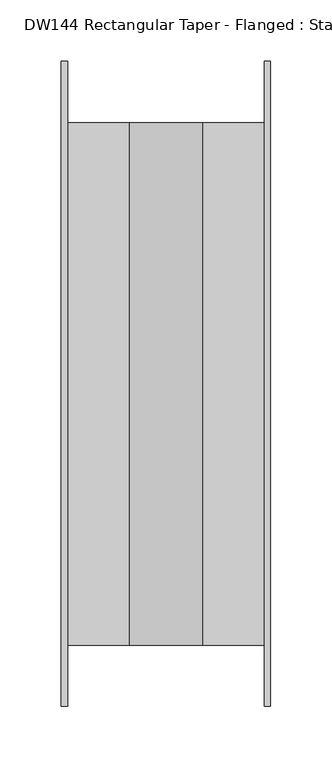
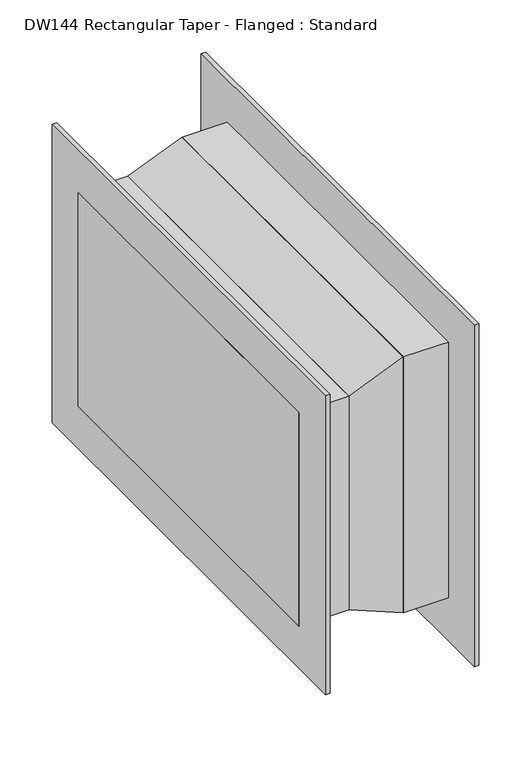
"""IFC4 building model written with IfcOpenShell, lengths in millimetres: duct fitting geometry, DW144 Rectangular Taper - Flanged : Standard."""

from ifc_helpers import new_model, si_unit, frame, origin, place, context, project, spatial, polyline, outline, extrude, source, transform, mapped, element, save


def dw144_rectangular_taper_flanged_standard_24383114(model_context):
    return source(origin(), model_context, "Body", "SweptSolid", [
        extrude(outline(polyline([(170.3553391, 212.5), (170.3553391, -212.5), (115.3553391, -212.5), (115.3553391, 212.5), (170.3553391, 212.5)])), frame((0.0, 0.0, -150.0), z_axis=(0.0, 0.0, 1.0), x_axis=(1.0, 0.0, 0.0)), (0.0, 0.0, 1.0), 300.0),
        extrude(outline(polyline([(55.0, 212.5), (55.0, -212.5), (0.0, -212.5), (0.0, 212.5), (55.0, 212.5)])), frame((0.0, 0.0, -125.0), z_axis=(0.0, 0.0, 1.0), x_axis=(1.0, 0.0, 0.0)), (0.0, 0.0, 1.0), 250.0),
        extrude(outline(polyline([(125.0, 55.0), (-125.0, 55.0), (-150.0, 115.3553391), (150.0, 115.3553391), (125.0, 55.0)])), frame((0.0, -212.5, 0.0), z_axis=(0.0, 1.0, 0.0), x_axis=(0.0, 0.0, 1.0)), (0.0, 0.0, 1.0), 425.0),
        extrude(outline(polyline([(170.3553391, 262.5), (170.3553391, -262.5), (165.3553391, -262.5), (165.3553391, 262.5), (170.3553391, 262.5)])), frame((0.0, 0.0, -200.0), z_axis=(0.0, 0.0, 1.0), x_axis=(1.0, 0.0, 0.0)), (0.0, 0.0, 1.0), 400.0),
        extrude(outline(polyline([(5.0, 262.5), (5.0, -262.5), (0.0, -262.5), (0.0, 262.5), (5.0, 262.5)])), frame((0.0, 0.0, -175.0), z_axis=(0.0, 0.0, 1.0), x_axis=(1.0, 0.0, 0.0)), (0.0, 0.0, 1.0), 350.0),
    ])


if __name__ == "__main__":
    model = new_model("IFC4")
    model_context = context("Model", 3, world=origin())
    ifc_project = project(units=[si_unit("LENGTHUNIT", "METRE", prefix="MILLI")], contexts=[model_context])
    site = spatial("IfcSite", under=ifc_project)
    building = spatial("IfcBuilding", under=site)
    placement = place(None, origin())
    dw144_rectangular_taper_flanged_standard_shape = dw144_rectangular_taper_flanged_standard_24383114(model_context)
    element("IfcDuctFitting", 1, ObjectType="DW144 Rectangular Taper - Flanged : Standard", at=placement, inside=building, context=model_context, shape_type="MappedRepresentation", body=[
        mapped(dw144_rectangular_taper_flanged_standard_shape, transform((0.0, 0.0, 0.0), x_axis=(1.0, 0.0, 0.0), y_axis=(0.0, 1.0, 0.0), z_axis=(0.0, 0.0, 1.0))),
    ])
    save(model, "model.ifc")
